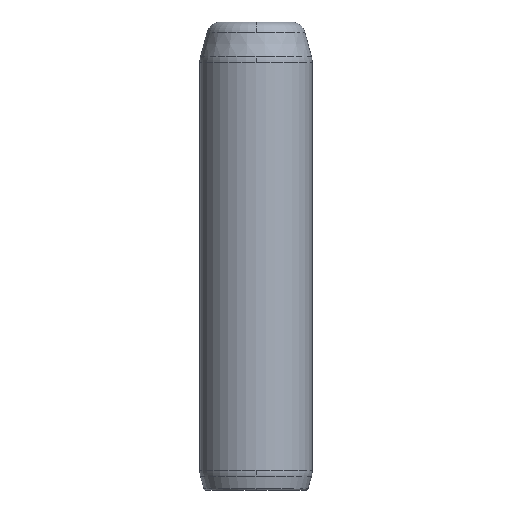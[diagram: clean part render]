
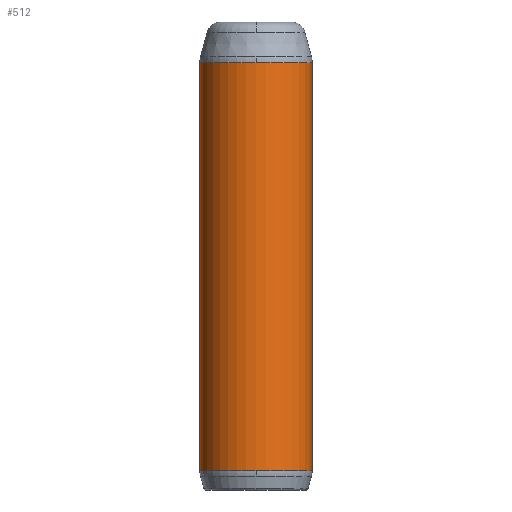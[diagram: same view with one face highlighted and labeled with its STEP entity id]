
A CAD part, front view. The second image highlights one B-rep face of the part: STEP entity #512.
In plain terms, the highlighted cylindrical face has radius 12 mm (diameter 24 mm), a partial arc.
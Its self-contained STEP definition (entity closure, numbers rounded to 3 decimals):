
#416=CARTESIAN_POINT('',(0.0,91.342,12.));
#417=VERTEX_POINT('',#416);
#444=CARTESIAN_POINT('',(-12.0,91.342,0.));
#445=VERTEX_POINT('',#444);
#453=CARTESIAN_POINT('',(0.0,91.342,0.0));
#454=DIRECTION('',(0.0,1.0,0.0));
#455=DIRECTION('',(1.0,0.0,0.0));
#456=AXIS2_PLACEMENT_3D('',#453,#454,#455);
#457=CIRCLE('',#456,12.);
#458=EDGE_CURVE('',#445,#417,#457,.T.);
#463=CARTESIAN_POINT('',(0.0,-0.201,0.0));
#464=DIRECTION('',(0.0,1.0,0.0));
#465=DIRECTION('',(1.0,0.0,0.0));
#466=AXIS2_PLACEMENT_3D('',#463,#464,#465);
#467=CYLINDRICAL_SURFACE('',#466,12.0);
#468=CARTESIAN_POINT('',(12.,91.342,0.0));
#469=VERTEX_POINT('',#468);
#470=CARTESIAN_POINT('',(12.,4.158,0.0));
#471=VERTEX_POINT('',#470);
#472=CARTESIAN_POINT('',(12.,91.342,0.0));
#473=DIRECTION('',(0.0,-1.0,0.0));
#474=VECTOR('',#473,87.183);
#475=LINE('',#472,#474);
#476=EDGE_CURVE('',#469,#471,#475,.T.);
#477=ORIENTED_EDGE('',*,*,#476,.F.);
#478=CARTESIAN_POINT('',(0.0,91.342,0.0));
#479=DIRECTION('',(0.0,1.0,0.0));
#480=DIRECTION('',(1.0,0.0,0.0));
#481=AXIS2_PLACEMENT_3D('',#478,#479,#480);
#482=CIRCLE('',#481,12.);
#483=EDGE_CURVE('',#417,#469,#482,.T.);
#484=ORIENTED_EDGE('',*,*,#483,.F.);
#485=ORIENTED_EDGE('',*,*,#458,.F.);
#486=CARTESIAN_POINT('',(-12.0,4.158,0.));
#487=VERTEX_POINT('',#486);
#488=CARTESIAN_POINT('',(-12.0,91.342,0.));
#489=DIRECTION('',(0.0,-1.0,0.0));
#490=VECTOR('',#489,87.183);
#491=LINE('',#488,#490);
#492=EDGE_CURVE('',#445,#487,#491,.T.);
#493=ORIENTED_EDGE('',*,*,#492,.T.);
#494=CARTESIAN_POINT('',(0.0,4.158,12.));
#495=VERTEX_POINT('',#494);
#496=CARTESIAN_POINT('',(0.0,4.158,0.0));
#497=DIRECTION('',(0.0,1.0,0.0));
#498=DIRECTION('',(1.0,0.0,0.0));
#499=AXIS2_PLACEMENT_3D('',#496,#497,#498);
#500=CIRCLE('',#499,12.);
#501=EDGE_CURVE('',#487,#495,#500,.T.);
#502=ORIENTED_EDGE('',*,*,#501,.T.);
#503=CARTESIAN_POINT('',(0.0,4.158,0.0));
#504=DIRECTION('',(0.0,1.0,0.0));
#505=DIRECTION('',(1.0,0.0,0.0));
#506=AXIS2_PLACEMENT_3D('',#503,#504,#505);
#507=CIRCLE('',#506,12.);
#508=EDGE_CURVE('',#495,#471,#507,.T.);
#509=ORIENTED_EDGE('',*,*,#508,.T.);
#510=EDGE_LOOP('',(#477,#484,#485,#493,#502,#509));
#511=FACE_OUTER_BOUND('',#510,.T.);
#512=ADVANCED_FACE('',(#511),#467,.T.);
